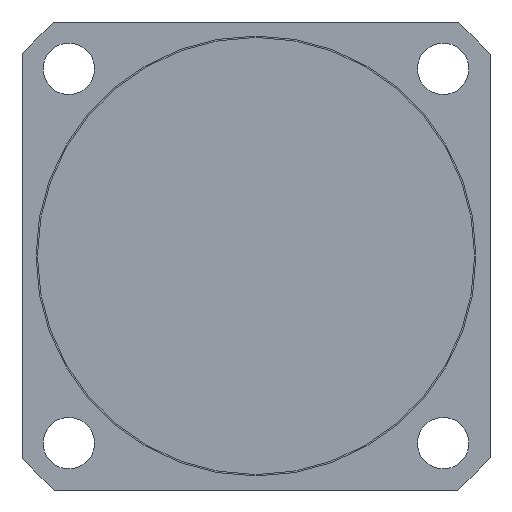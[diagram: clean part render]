
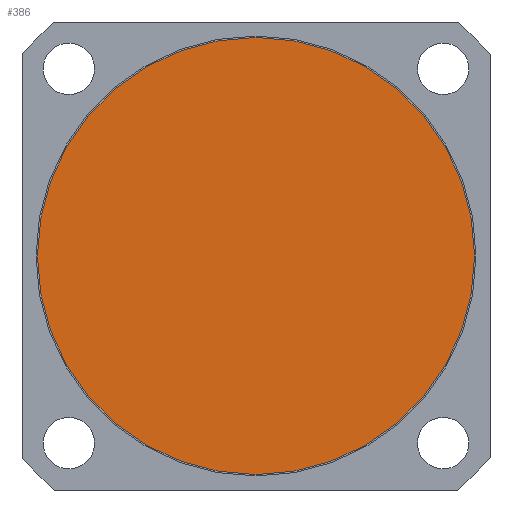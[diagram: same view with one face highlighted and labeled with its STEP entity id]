
A CAD part, front view. The second image highlights one B-rep face of the part: STEP entity #386.
In plain terms, the highlighted planar face has unit normal (0, -1, 0).
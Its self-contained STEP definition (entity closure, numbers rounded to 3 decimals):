
#386 = ADVANCED_FACE( '', ( #901 ), #902, .T. );
#901 = FACE_OUTER_BOUND( '', #1876, .T. );
#902 = PLANE( '', #1877 );
#1876 = EDGE_LOOP( '', ( #3174 ) );
#1877 = AXIS2_PLACEMENT_3D( '', #3175, #3176, #3177 );
#3174 = ORIENTED_EDGE( '', *, *, #6120, .T. );
#3175 = CARTESIAN_POINT( '', ( 0., -59.5, 0. ) );
#3176 = DIRECTION( '', ( 0., -1., 0. ) );
#3177 = DIRECTION( '', ( 1., 0., 0. ) );
#6120 = EDGE_CURVE( '', #7260, #7260, #7261, .T. );
#7260 = VERTEX_POINT( '', #9134 );
#7261 = CIRCLE( '', #9135, 23.35 );
#9134 = CARTESIAN_POINT( '', ( -23.35, -59.5, 0. ) );
#9135 = AXIS2_PLACEMENT_3D( '', #11293, #11294, #11295 );
#11293 = CARTESIAN_POINT( '', ( 0., -59.5, 0. ) );
#11294 = DIRECTION( '', ( 0., -1., 0. ) );
#11295 = DIRECTION( '', ( -1., 0., 0. ) );
